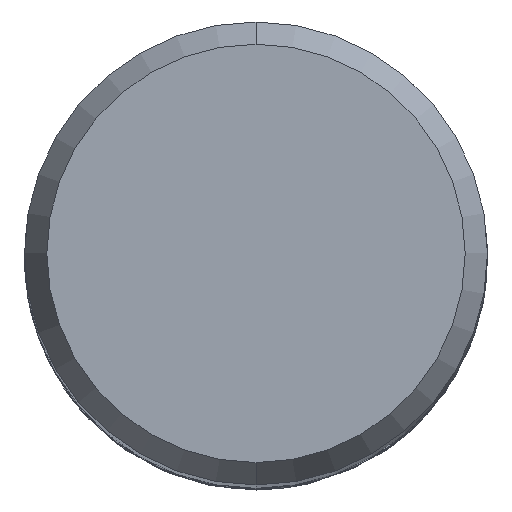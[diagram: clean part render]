
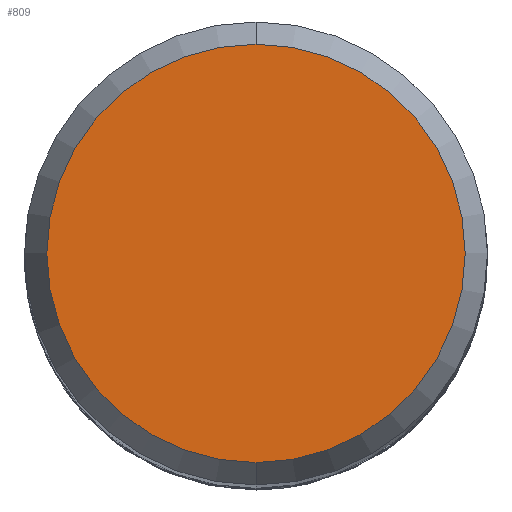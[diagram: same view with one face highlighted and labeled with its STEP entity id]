
A CAD part, top view. The second image highlights one B-rep face of the part: STEP entity #809.
In plain terms, the highlighted planar face has unit normal (0, 0, 1).
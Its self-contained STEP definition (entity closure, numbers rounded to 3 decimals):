
#647=EDGE_CURVE('',#737,#995,#1719,.T.);
#737=VERTEX_POINT('',#1818);
#809=ADVANCED_FACE('',(#1894),#1895,.T.);
#995=VERTEX_POINT('',#2099);
#1487=EDGE_CURVE('',#995,#737,#2638,.T.);
#1719=CIRCLE('',#3803,5.423);
#1818=CARTESIAN_POINT('',(0.,-5.423,0.0));
#1894=FACE_OUTER_BOUND('',#5549,.T.);
#1895=PLANE('',#5550);
#2099=CARTESIAN_POINT('',(0.0,5.423,0.0));
#2638=CIRCLE('',#13363,5.423);
#3803=AXIS2_PLACEMENT_3D('',#13863,#13864,#13865);
#5549=EDGE_LOOP('',(#14015,#14016));
#5550=AXIS2_PLACEMENT_3D('',#14017,#14018,#14019);
#13363=AXIS2_PLACEMENT_3D('',#14809,#14810,#14811);
#13863=CARTESIAN_POINT('',(0.0,0.0,0.0));
#13864=DIRECTION('',(0.0,0.0,-1.0));
#13865=DIRECTION('',(0.0,1.0,0.0));
#14015=ORIENTED_EDGE('',*,*,#1487,.F.);
#14016=ORIENTED_EDGE('',*,*,#647,.F.);
#14017=CARTESIAN_POINT('',(0.0,2.711,0.0));
#14018=DIRECTION('',(-0.0,0.0,1.0));
#14019=DIRECTION('',(0.0,-1.0,0.0));
#14809=CARTESIAN_POINT('',(0.0,0.0,0.0));
#14810=DIRECTION('',(0.0,0.0,-1.0));
#14811=DIRECTION('',(0.0,1.0,0.0));
